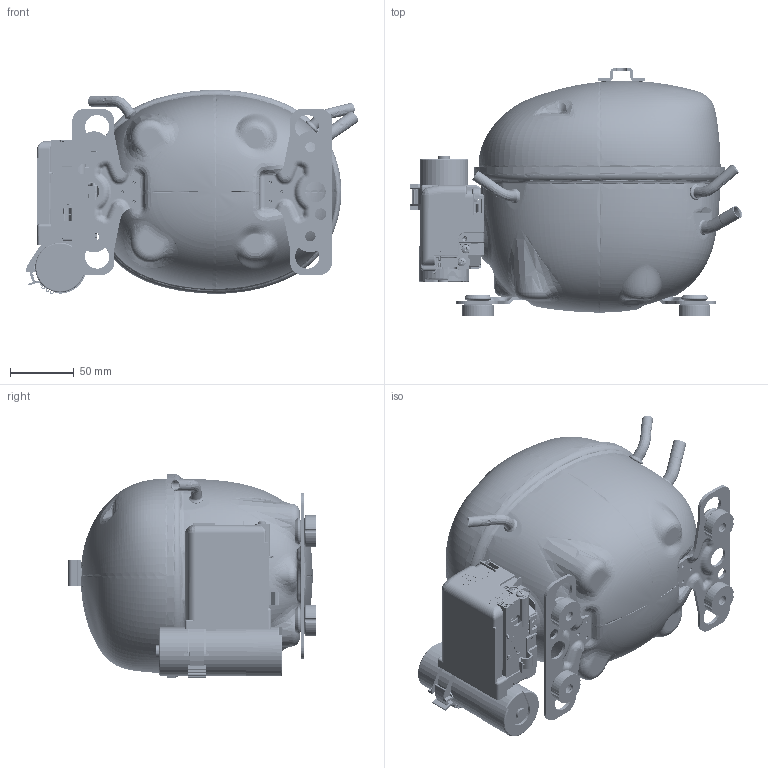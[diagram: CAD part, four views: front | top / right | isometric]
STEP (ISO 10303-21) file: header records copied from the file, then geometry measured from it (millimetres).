
FILE_DESCRIPTION((''),'2;1');
FILE_NAME('106B1200_106B1300_BENT30_ELE_ASM','2024-10-03T11:06:15',('SKHC0530'),(''),'CREO PARAMETRIC BY PTC INC, 2022162','CREO PARAMETRIC BY PTC INC, 2022162','');
FILE_SCHEMA(('CONFIG_CONTROL_DESIGN'));
Products named in the file (27): 106B1400_SHELL_PRESSED; 106B1500_US_EU_FOOT_STRAP; 117-3617_BODY; 117-3617_PINS; 117-3617_GLASS_FUSED; 117-3617_ASM; 10539602_TERMINAL_FENCE; 10919100_SPRING_PIN_FOR_SHELL; 106B1802_SUCTION_TUBE_BENT30_AF2; 106B1850_DISCH_TUBE_BENT; 106B1880_SERVICE_TUBE_BENT35; 106B1200_BENT30_AF0_ASM; 106B1300_KAPPA_COVER; 10538901_KAPPA_BRACKET; 10538901_COVER_WITH_BRACKET_ASM; 106B1200_106B1300_BENT30_AF0_ASM; 118-3661; 117U9203; 11341000_CABLE_CLAMP_CLOSED_AF1; 117U50XX_START_CAPACITOR_AF2; 103N0535; 117U50XX_K_SERIE_AF1_ASM; 10641201; 10636401_TERM_BOARD_COVER; 10636000; 10636200; 106B1200_106B1300_BENT30_ELE_ASM
Assembly tree (37 placements, depth 5):
  106B1200_106B1300_BENT30_ELE_ASM
    106B1200_106B1300_BENT30_AF0_ASM
      106B1200_BENT30_AF0_ASM
        106B1400_SHELL_PRESSED
        106B1500_US_EU_FOOT_STRAP  x2
        117-3617_ASM
          117-3617_BODY
          117-3617_PINS  x3
          117-3617_GLASS_FUSED  x3
        10539602_TERMINAL_FENCE
        10919100_SPRING_PIN_FOR_SHELL  x4
        106B1802_SUCTION_TUBE_BENT30_AF2
        106B1850_DISCH_TUBE_BENT
        106B1880_SERVICE_TUBE_BENT35
      10538901_COVER_WITH_BRACKET_ASM
        106B1300_KAPPA_COVER
        10538901_KAPPA_BRACKET
    118-3661  x4
    117U9203
    11341000_CABLE_CLAMP_CLOSED_AF1
    117U50XX_K_SERIE_AF1_ASM
      117U50XX_START_CAPACITOR_AF2
      103N0535
    10641201
    10636401_TERM_BOARD_COVER
    10636000
    10636200
Bounding box: 260.69 x 194.4 x 160.56 mm (x, y, z)
Volume: 620417.4 mm3; surface area: 384586.3 mm2
Topology: 33 solids, 48 shells, 6894 faces, 18889 edges, 12042 vertices
Faces by surface type: plane 3906, cylinder 1297, bspline 770, torus 345, cone 288, extrusion 183, sphere 81, revolution 24
Entity records: 666857 total; most frequent: CARTESIAN_POINT 504995, ORIENTED_EDGE 35988, DIRECTION 30049, EDGE_CURVE 17998, VECTOR 12359, LINE 12176, VERTEX_POINT 11570, AXIS2_PLACEMENT_3D 8837
